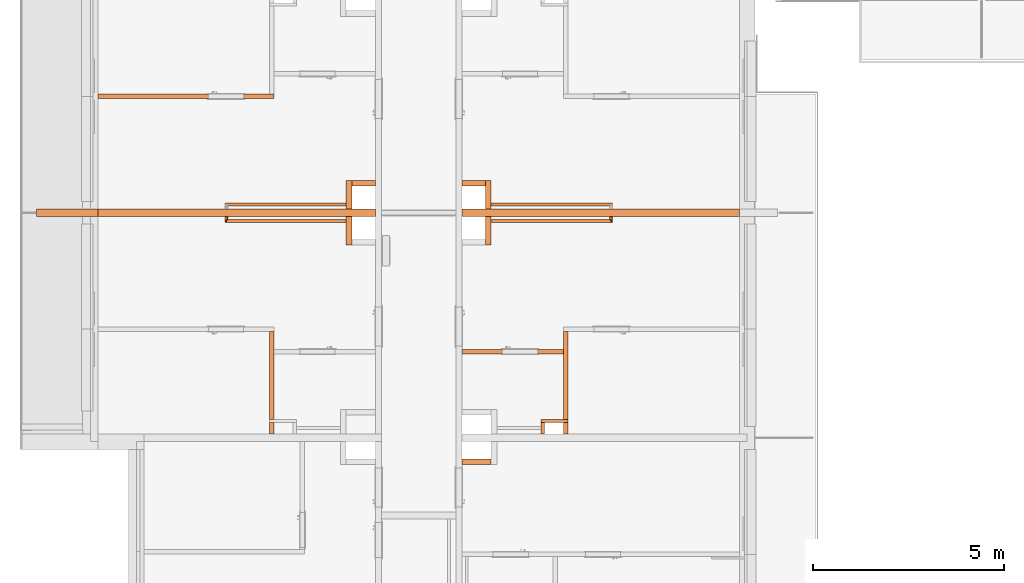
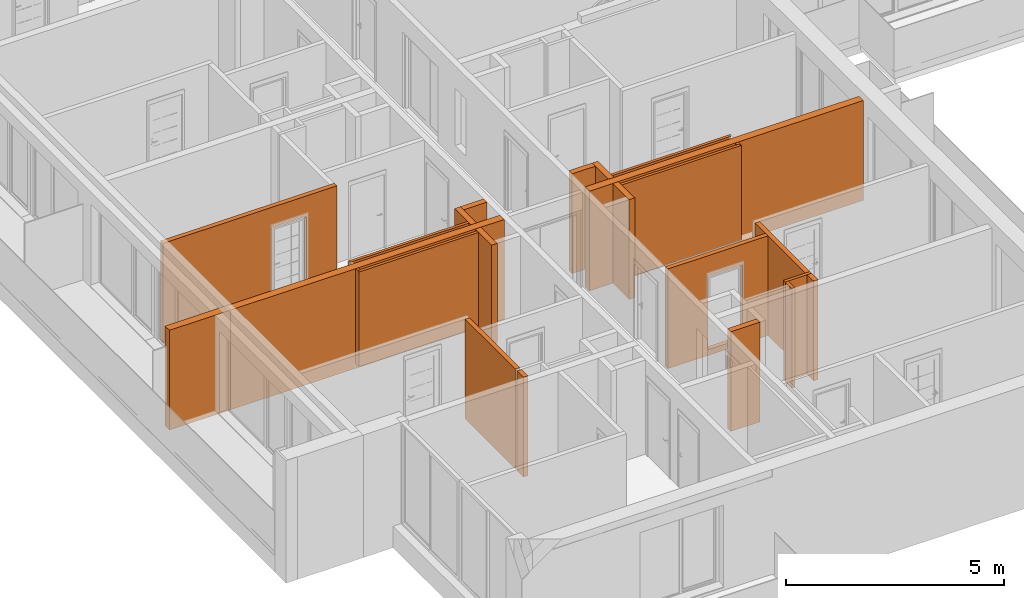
# One storey, part 53 of 67: 22 proxies, 2 openings.
"""IFC2X3 building model written with IfcOpenShell, lengths in millimetres."""

from ifc_helpers import new_model, entity, si_unit, converted_unit, derived_unit, money_unit, direction, frame, origin_with_axes, origin_2d_with_axis, place, context, subcontext, project, spatial, rectangle, extrude, faceted_brep, material, material_list, type_object, element, save


model = new_model("IFC2X3")

# Units and contexts
model_context = context("Model", 3, precision=0.01, world=origin_with_axes(), true_north=direction((0.34421633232, 0.938890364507)))
body_context = subcontext(model_context, "Body", "Model", "MODEL_VIEW")
ifc_project = project(units=[si_unit("LENGTHUNIT", "METRE", prefix="MILLI"), si_unit("AREAUNIT", "SQUARE_METRE"), si_unit("VOLUMEUNIT", "CUBIC_METRE"), converted_unit("PLANEANGLEUNIT", "DEGREE", entity("IfcPlaneAngleMeasure", 0.0174532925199), si_unit("PLANEANGLEUNIT", "RADIAN"), dimensions=[0, 0, 0, 0, 0, 0, 0]), si_unit("SOLIDANGLEUNIT", "STERADIAN"), money_unit("USD"), converted_unit("TIMEUNIT", "Year", entity("IfcTimeMeasure", 31556926.0), si_unit("TIMEUNIT", "SECOND"), dimensions=[0, 0, 1, 0, 0, 0, 0]), si_unit("MASSUNIT", "GRAM", prefix="KILO"), si_unit("THERMODYNAMICTEMPERATUREUNIT", "DEGREE_CELSIUS"), si_unit("LUMINOUSINTENSITYUNIT", "LUMEN"), si_unit("ENERGYUNIT", "JOULE", prefix="MEGA"), derived_unit("THERMALCONDUCTANCEUNIT", [(si_unit("POWERUNIT", "WATT"), 1), (si_unit("LENGTHUNIT", "METRE"), -1), (si_unit("THERMODYNAMICTEMPERATUREUNIT", "KELVIN"), -1)]), derived_unit("SPECIFICHEATCAPACITYUNIT", [(si_unit("ENERGYUNIT", "JOULE"), 1), (si_unit("MASSUNIT", "GRAM", prefix="KILO"), -1), (si_unit("THERMODYNAMICTEMPERATUREUNIT", "KELVIN"), -1)]), derived_unit("MASSDENSITYUNIT", [(si_unit("MASSUNIT", "GRAM", prefix="KILO"), 1), (si_unit("VOLUMEUNIT", "CUBIC_METRE"), -1)])], contexts=[model_context])

# Site, building, storey
site_placement = place(None, origin_with_axes())
site = spatial("IfcSite", under=ifc_project, at=site_placement, Name="USTRONIE MORSKIE", CompositionType="ELEMENT")
building_placement = place(site_placement, origin_with_axes())
building = spatial("IfcBuilding", under=site, at=building_placement, Name="Budynek", CompositionType="ELEMENT")
storey_placement = place(building_placement, frame((0.0, 0.0, 4000.0), z_axis=(0.0, 0.0, 1.0), x_axis=(1.0, 0.0, 0.0)))
storey = spatial("IfcBuildingStorey", under=building, at=storey_placement, Name="PIĘTRO 1", CompositionType="ELEMENT", Elevation=4000.0)

# Proxy
ifc_material_1 = material(Name="Bloczki silikatowe")
building_element_proxy_type_1 = type_object("IfcBuildingElementProxyType", Name="Bloczki silikatowe 120", PredefinedType="NOTDEFINED")
proxy_1_placement = place(storey_placement, frame((362417.920919, 715101.199036, -160.0), z_axis=(0.0, 0.0, 1.0), x_axis=(0.0, 1.0, 0.0)))
element("IfcBuildingElementProxy", 1, at=proxy_1_placement, inside=storey, type_object=building_element_proxy_type_1, material=ifc_material_1, Name="SW-04", context=body_context, shape_type="Brep", body=[
    faceted_brep([(400.01915523, -60.0, 2800.0), (400.01915523, 60.0, 2800.0), (99.9999880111, 60.0, 2800.0), (99.9999874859, -60.0, 2800.0), (400.01915523, -60.0, 0.0), (400.01915523, 60.0, 0.0), (99.9999880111, 60.0, 0.0), (99.9999874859, -60.0, 0.0)], [[[0, 1, 2, 3]], [[1, 0, 4, 5]], [[1, 5, 6, 2]], [[7, 3, 2, 6]], [[4, 0, 3, 7]], [[5, 4, 7, 6]]]),
    faceted_brep([(2790.01935038, -60.0, 2800.0), (2790.01935038, 60.0, 2800.0), (480.01915523, 60.0, 2800.0), (480.01915523, -60.0, 2800.0), (2790.01935038, -60.0, 0.0), (2790.01935038, 60.0, 0.0), (480.01915523, 60.0, 0.0), (480.01915523, -60.0, 0.0)], [[[0, 1, 2, 3]], [[1, 0, 4, 5]], [[1, 5, 6, 2]], [[7, 3, 2, 6]], [[4, 0, 3, 7]], [[5, 4, 7, 6]]]),
])

# Proxy, opening
proxy_2_placement = place(storey_placement, frame((354717.920919, 724051.179686, -160.0), z_axis=(0.0, 0.0, 1.0), x_axis=(-1.0, 0.0, 0.0)))
proxy_2 = element("IfcBuildingElementProxy", 2, at=proxy_2_placement, inside=storey, type_object=building_element_proxy_type_1, material=ifc_material_1, Name="SW-04", context=body_context, shape_type="Brep", body=[
    faceted_brep([(4550.0, 59.9999999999, 0.0), (4550.0, -59.9999999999, 0.0), (-60.0, -59.9999999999, 0.0), (-60.0, 59.9999999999, 0.0), (4550.0, 59.9999999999, 2800.0), (4550.0, -59.9999999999, 2800.0), (-60.0, -59.9999999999, 2800.0), (-60.0, 59.9999999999, 2800.0)], [[[0, 1, 2, 3]], [[1, 0, 4, 5]], [[1, 5, 6, 2]], [[7, 3, 2, 6]], [[4, 0, 3, 7]], [[5, 4, 7, 6]]]),
])
opening_1_placement = place(proxy_2_placement, frame((1200.0, 0.0, 160.0), z_axis=(0.0, 0.0, 1.0), x_axis=(1.0, 0.0, 0.0)))
element("IfcOpeningElement", 3, at=opening_1_placement, cuts=proxy_2, Name="Dw.3", context=body_context, shape_type="SweptSolid", body=[
    extrude(rectangle(XDim=920.0, YDim=2070.0, at=origin_2d_with_axis()), frame((0.0, -120.0, 1035.0), z_axis=(0.0, 1.0, 0.0), x_axis=(-1.0, 0.0, 0.0)), (0.0, 0.0, 1.0), 360.0),
    extrude(rectangle(XDim=994.0, YDim=2177.0, at=origin_2d_with_axis()), frame((0.0, -59.9999999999, 1088.5), z_axis=(0.0, 1.0, 0.0), x_axis=(-1.0, 0.0, 0.0)), (0.0, 0.0, -1.0), 120.0),
    extrude(rectangle(XDim=994.0, YDim=2177.0, at=origin_2d_with_axis()), frame((0.0, 60.0000000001, 1088.5), z_axis=(0.0, -1.0, 0.0), x_axis=(-1.0, 0.0, 0.0)), (0.0, 0.0, -1.0), 120.0),
])

# Proxy
proxy_3_placement = place(storey_placement, frame((354717.920919, 715101.199036, -160.0), z_axis=(0.0, 0.0, 1.0), x_axis=(0.0, 1.0, 0.0)))
element("IfcBuildingElementProxy", 4, at=proxy_3_placement, inside=storey, type_object=building_element_proxy_type_1, material=ifc_material_1, Name="SW-04", context=body_context, shape_type="Brep", body=[
    faceted_brep([(2790.01935038, 60.0, 0.0), (2790.01935038, -60.0, 0.0), (480.01915523, -60.0, 0.0), (480.01915523, 60.0, 0.0), (2790.01935038, 60.0, 2800.0), (2790.01935038, -60.0, 2800.0), (480.01915523, -60.0, 2800.0), (480.01915523, 60.0, 2800.0)], [[[0, 1, 2, 3]], [[1, 0, 4, 5]], [[1, 5, 6, 2]], [[7, 3, 2, 6]], [[4, 0, 3, 7]], [[5, 4, 7, 6]]]),
    faceted_brep([(400.01915523, 60.0, 0.0), (400.01915523, -60.0, 0.0), (100.0, -60.0, 0.0), (100.0, 60.0, 0.0), (400.01915523, 60.0, 2800.0), (400.01915523, -60.0, 2800.0), (100.0, -60.0, 2800.0), (100.0, 60.0, 2800.0)], [[[0, 1, 2, 3]], [[1, 0, 4, 5]], [[1, 5, 6, 2]], [[7, 3, 2, 6]], [[4, 0, 3, 7]], [[5, 4, 7, 6]]]),
])

# Proxy, opening
proxy_4_placement = place(storey_placement, frame((362417.920919, 717361.219701, -160.0), z_axis=(0.0, 0.0, 1.0), x_axis=(-1.0, 0.0, 0.0)))
proxy_4 = element("IfcBuildingElementProxy", 5, at=proxy_4_placement, inside=storey, type_object=building_element_proxy_type_1, material=ifc_material_1, Name="SW-04", context=body_context, shape_type="Brep", body=[
    faceted_brep([(2720.0, -59.9999999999, 2800.0), (2720.0, 59.9999999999, 2800.0), (60.0, 59.9999999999, 2800.0), (60.0, -59.9999999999, 2800.0), (2720.0, -59.9999999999, 0.0), (2720.0, 59.9999999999, 0.0), (60.0, 59.9999999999, 0.0), (60.0, -59.9999999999, 0.0)], [[[0, 1, 2, 3]], [[1, 0, 4, 5]], [[1, 5, 6, 2]], [[7, 3, 2, 6]], [[4, 0, 3, 7]], [[5, 4, 7, 6]]]),
])
opening_2_placement = place(proxy_4_placement, frame((1200.0, 0.0, 160.0), z_axis=(0.0, 0.0, 1.0), x_axis=(1.0, 0.0, 0.0)))
element("IfcOpeningElement", 6, at=opening_2_placement, cuts=proxy_4, Name="Dw.4", context=body_context, shape_type="SweptSolid", body=[
    extrude(rectangle(XDim=920.0, YDim=2070.0, at=origin_2d_with_axis()), frame((0.0, 120.0, 1035.0), z_axis=(0.0, -1.0, 0.0), x_axis=(-1.0, 0.0, 0.0)), (0.0, 0.0, 1.0), 360.0),
    extrude(rectangle(XDim=994.0, YDim=2177.0, at=origin_2d_with_axis()), frame((0.0, 60.0000000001, 1088.5), z_axis=(0.0, -1.0, 0.0), x_axis=(-1.0, 0.0, 0.0)), (0.0, 0.0, -1.0), 120.0),
    extrude(rectangle(XDim=994.0, YDim=2177.0, at=origin_2d_with_axis()), frame((0.0, -59.9999999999, 1088.5), z_axis=(0.0, 1.0, 0.0), x_axis=(-1.0, 0.0, 0.0)), (0.0, 0.0, -1.0), 120.0),
])

# Proxies
ifc_material_2 = material(Name="-Pustka powietrzna")
ifc_material_3 = material(Name="Płyta GK")
ifc_material_list_1 = material_list([ifc_material_2, ifc_material_3, ifc_material_3])
building_element_proxy_type_2 = type_object("IfcBuildingElementProxyType", Name="330-SD GK 2-warstwy 75", PredefinedType="NOTDEFINED")
proxy_5_placement = place(storey_placement, frame((360317.920919, 720771.199036, -180.0), z_axis=(0.0, 0.0, 1.0), x_axis=(1.0, 0.0, 0.0)))
element("IfcBuildingElementProxy", 7, at=proxy_5_placement, inside=storey, type_object=building_element_proxy_type_2, material=ifc_material_list_1, Name="Ściana-009", context=body_context, shape_type="Brep", body=[
    faceted_brep([(3300.0, 0.0, 180.0), (3300.0, 50.0, 180.0), (3300.0, 50.0, 2820.0), (3300.0, 0.0, 2820.0), (150.0, 50.0, 180.0), (150.0, 0.0, 180.0), (150.0, 50.0, 2820.0), (150.0, 0.0, 2820.0)], [[[0, 1, 2, 3]], [[4, 1, 0, 5]], [[1, 4, 6, 2]], [[2, 6, 7, 3]], [[5, 0, 3, 7]], [[4, 5, 7, 6]]]),
    faceted_brep([(3312.5, -12.5, 165.0), (3312.5, 0.0, 165.0), (3312.5, 0.0, 2820.0), (3312.5, -12.5, 2820.0), (150.0, 0.0, 165.0), (150.0, -12.5, 165.0), (150.0, 0.0, 2820.0), (150.0, -12.5, 2820.0)], [[[0, 1, 2, 3]], [[4, 1, 0, 5]], [[1, 4, 6, 2]], [[2, 6, 7, 3]], [[5, 0, 3, 7]], [[4, 5, 7, 6]]]),
    faceted_brep([(3325.0, -25.0, 165.0), (3325.0, -12.5, 165.0), (3325.0, -12.5, 2820.0), (3325.0, -25.0, 2820.0), (150.0, -12.5, 165.0), (150.0, -25.0, 165.0), (150.0, -12.5, 2820.0), (150.0, -25.0, 2820.0)], [[[0, 1, 2, 3]], [[4, 1, 0, 5]], [[1, 4, 6, 2]], [[2, 6, 7, 3]], [[5, 0, 3, 7]], [[4, 5, 7, 6]]]),
])
proxy_6_placement = place(storey_placement, frame((353517.920919, 721001.199036, -180.0), z_axis=(0.0, 0.0, 1.0), x_axis=(0.0, -1.0, 0.0)))
element("IfcBuildingElementProxy", 8, at=proxy_6_placement, inside=storey, type_object=building_element_proxy_type_2, material=ifc_material_list_1, Name="Ściana-009", context=body_context, shape_type="Brep", body=[
    faceted_brep([(180.0, 50.0, 180.0), (100.0, 50.0, 180.0), (100.0, 50.0, 2820.0), (180.0, 50.0, 2820.0), (100.0, 0.0, 180.0), (180.0, 0.0, 180.0), (100.0, 0.0, 2820.0), (180.0, 0.0, 2820.0)], [[[0, 1, 2, 3]], [[4, 1, 0, 5]], [[1, 4, 6, 2]], [[3, 2, 6, 7]], [[5, 0, 3, 7]], [[4, 5, 7, 6]]]),
    faceted_brep([(230.0, 0.0, 165.0), (100.0, 0.0, 165.0), (100.0, 0.0, 2820.0), (230.0, 0.0, 2820.0), (100.0, -12.5, 165.0), (230.0, -12.5, 165.0), (100.0, -12.5, 2820.0), (230.0, -12.5, 2820.0)], [[[0, 1, 2, 3]], [[4, 1, 0, 5]], [[1, 4, 6, 2]], [[3, 2, 6, 7]], [[5, 0, 3, 7]], [[4, 5, 7, 6]]]),
    faceted_brep([(242.5, -12.5, 165.0), (100.0, -12.5, 165.0), (100.0, -12.5, 2820.0), (242.5, -12.5, 2820.0), (100.0, -25.0, 165.0), (242.5, -25.0, 165.0), (100.0, -25.0, 2820.0), (242.5, -25.0, 2820.0)], [[[0, 1, 2, 3]], [[4, 1, 0, 5]], [[1, 4, 6, 2]], [[3, 2, 6, 7]], [[5, 0, 3, 7]], [[4, 5, 7, 6]]]),
])
proxy_7_placement = place(storey_placement, frame((356817.920919, 721231.199036, -180.0), z_axis=(0.0, 0.0, 1.0), x_axis=(-1.0, 0.0, 0.0)))
element("IfcBuildingElementProxy", 9, at=proxy_7_placement, inside=storey, type_object=building_element_proxy_type_2, material=ifc_material_list_1, Name="Ściana-009", context=body_context, shape_type="Brep", body=[
    faceted_brep([(150.0, 50.0, 180.0), (150.0, 0.0, 180.0), (150.0, 0.0, 2820.0), (150.0, 50.0, 2820.0), (3300.0, 0.0, 180.0), (3300.0, 50.0, 180.0), (3300.0, 0.0, 2820.0), (3300.0, 50.0, 2820.0)], [[[0, 1, 2, 3]], [[4, 1, 0, 5]], [[1, 4, 6, 2]], [[7, 3, 2, 6]], [[5, 0, 3, 7]], [[4, 5, 7, 6]]]),
    faceted_brep([(150.0, 0.0, 165.0), (150.0, -12.5, 165.0), (150.0, -12.5, 2820.0), (150.0, 0.0, 2820.0), (3312.5, -12.5, 165.0), (3312.5, 0.0, 165.0), (3312.5, -12.5, 2820.0), (3312.5, 0.0, 2820.0)], [[[0, 1, 2, 3]], [[4, 1, 0, 5]], [[1, 4, 6, 2]], [[7, 3, 2, 6]], [[5, 0, 3, 7]], [[4, 5, 7, 6]]]),
    faceted_brep([(150.0, -12.5, 165.0), (150.0, -25.0, 165.0), (150.0, -25.0, 2820.0), (150.0, -12.5, 2820.0), (3325.0, -25.0, 165.0), (3325.0, -12.5, 165.0), (3325.0, -25.0, 2820.0), (3325.0, -12.5, 2820.0)], [[[0, 1, 2, 3]], [[4, 1, 0, 5]], [[1, 4, 6, 2]], [[7, 3, 2, 6]], [[5, 0, 3, 7]], [[4, 5, 7, 6]]]),
])
ifc_material_list_2 = material_list([ifc_material_3, ifc_material_3, ifc_material_2])
proxy_8_placement = place(storey_placement, frame((356817.920919, 720771.199036, -180.0), z_axis=(0.0, 0.0, 1.0), x_axis=(-1.0, 0.0, 0.0)))
element("IfcBuildingElementProxy", 10, at=proxy_8_placement, inside=storey, type_object=building_element_proxy_type_2, material=ifc_material_list_2, Name="Ściana-009", context=body_context, shape_type="Brep", body=[
    faceted_brep([(150.0, 25.0, 165.0), (150.0, 12.5, 165.0), (150.0, 12.5, 2820.0), (150.0, 25.0, 2820.0), (3325.0, 12.5, 165.0), (3325.0, 25.0, 165.0), (3325.0, 12.5, 2820.0), (3325.0, 25.0, 2820.0)], [[[0, 1, 2, 3]], [[4, 1, 0, 5]], [[1, 4, 6, 2]], [[7, 3, 2, 6]], [[5, 0, 3, 7]], [[4, 5, 7, 6]]]),
    faceted_brep([(150.0, 12.5, 165.0), (150.0, 0.0, 165.0), (150.0, 0.0, 2820.0), (150.0, 12.5, 2820.0), (3312.5, 0.0, 165.0), (3312.5, 12.5, 165.0), (3312.5, 0.0, 2820.0), (3312.5, 12.5, 2820.0)], [[[0, 1, 2, 3]], [[4, 1, 0, 5]], [[1, 4, 6, 2]], [[7, 3, 2, 6]], [[5, 0, 3, 7]], [[4, 5, 7, 6]]]),
    faceted_brep([(150.0, 0.0, 180.0), (150.0, -50.0, 180.0), (150.0, -50.0, 2820.0), (150.0, 0.0, 2820.0), (3300.0, -50.0, 180.0), (3300.0, 0.0, 180.0), (3300.0, -50.0, 2820.0), (3300.0, 0.0, 2820.0)], [[[0, 1, 2, 3]], [[4, 1, 0, 5]], [[1, 4, 6, 2]], [[7, 3, 2, 6]], [[5, 0, 3, 7]], [[4, 5, 7, 6]]]),
])
proxy_9_placement = place(storey_placement, frame((360317.920919, 721231.199036, -180.0), z_axis=(0.0, 0.0, 1.0), x_axis=(1.0, 0.0, 0.0)))
element("IfcBuildingElementProxy", 11, at=proxy_9_placement, inside=storey, type_object=building_element_proxy_type_2, material=ifc_material_list_2, Name="Ściana-009", context=body_context, shape_type="Brep", body=[
    faceted_brep([(3325.0, 12.5, 165.0), (3325.0, 25.0, 165.0), (3325.0, 25.0, 2820.0), (3325.0, 12.5, 2820.0), (150.0, 25.0, 165.0), (150.0, 12.5, 165.0), (150.0, 25.0, 2820.0), (150.0, 12.5, 2820.0)], [[[0, 1, 2, 3]], [[4, 1, 0, 5]], [[1, 4, 6, 2]], [[2, 6, 7, 3]], [[5, 0, 3, 7]], [[4, 5, 7, 6]]]),
    faceted_brep([(3312.5, 0.0, 165.0), (3312.5, 12.5, 165.0), (3312.5, 12.5, 2820.0), (3312.5, 0.0, 2820.0), (150.0, 12.5, 165.0), (150.0, 0.0, 165.0), (150.0, 12.5, 2820.0), (150.0, 0.0, 2820.0)], [[[0, 1, 2, 3]], [[4, 1, 0, 5]], [[1, 4, 6, 2]], [[2, 6, 7, 3]], [[5, 0, 3, 7]], [[4, 5, 7, 6]]]),
    faceted_brep([(3300.0, -50.0, 180.0), (3300.0, 0.0, 180.0), (3300.0, 0.0, 2820.0), (3300.0, -50.0, 2820.0), (150.0, 0.0, 180.0), (150.0, -50.0, 180.0), (150.0, 0.0, 2820.0), (150.0, -50.0, 2820.0)], [[[0, 1, 2, 3]], [[4, 1, 0, 5]], [[1, 4, 6, 2]], [[2, 6, 7, 3]], [[5, 0, 3, 7]], [[4, 5, 7, 6]]]),
])
proxy_10_placement = place(storey_placement, frame((363617.920919, 721001.199036, -180.0), z_axis=(0.0, 0.0, 1.0), x_axis=(0.0, -1.0, 0.0)))
element("IfcBuildingElementProxy", 12, at=proxy_10_placement, inside=storey, type_object=building_element_proxy_type_2, material=ifc_material_list_2, Name="Ściana-009", context=body_context, shape_type="Brep", body=[
    faceted_brep([(242.5, 25.0, 165.0), (100.0, 25.0, 165.0), (100.0, 25.0, 2820.0), (242.5, 25.0, 2820.0), (100.0, 12.5, 165.0), (242.5, 12.5, 165.0), (100.0, 12.5, 2820.0), (242.5, 12.5, 2820.0)], [[[0, 1, 2, 3]], [[4, 1, 0, 5]], [[1, 4, 6, 2]], [[3, 2, 6, 7]], [[5, 0, 3, 7]], [[4, 5, 7, 6]]]),
    faceted_brep([(230.0, 12.5, 165.0), (100.0, 12.5, 165.0), (100.0, 12.5, 2820.0), (230.0, 12.5, 2820.0), (100.0, 0.0, 165.0), (230.0, 0.0, 165.0), (100.0, 0.0, 2820.0), (230.0, 0.0, 2820.0)], [[[0, 1, 2, 3]], [[4, 1, 0, 5]], [[1, 4, 6, 2]], [[3, 2, 6, 7]], [[5, 0, 3, 7]], [[4, 5, 7, 6]]]),
    faceted_brep([(180.0, 0.0, 180.0), (100.0, 0.0, 180.0), (100.0, 0.0, 2820.0), (180.0, 0.0, 2820.0), (100.0, -50.0, 180.0), (180.0, -50.0, 180.0), (100.0, -50.0, 2820.0), (180.0, -50.0, 2820.0)], [[[0, 1, 2, 3]], [[4, 1, 0, 5]], [[1, 4, 6, 2]], [[3, 2, 6, 7]], [[5, 0, 3, 7]], [[4, 5, 7, 6]]]),
])
building_element_proxy_type_3 = type_object("IfcBuildingElementProxyType", Name="Bloczki silikatowe 80", PredefinedType="NOTDEFINED")
proxy_11_placement = place(storey_placement, frame((362417.920919, 715541.218191, -160.0), z_axis=(0.0, 0.0, 1.0), x_axis=(-1.0, 0.0, 0.0)))
element("IfcBuildingElementProxy", 13, at=proxy_11_placement, inside=storey, type_object=building_element_proxy_type_3, material=ifc_material_1, Name="Ściana-009", context=body_context, shape_type="Brep", body=[
    faceted_brep([(640.0, -40.0, 2800.0), (640.0, 40.0, 2800.0), (-60.0, 40.0, 2800.0), (-60.0, -40.0, 2800.0), (640.0, -40.0, 0.0), (640.0, 40.0, 0.0), (-60.0, 40.0, 0.0), (-60.0, -40.0, 0.0)], [[[0, 1, 2, 3]], [[1, 0, 4, 5]], [[1, 5, 6, 2]], [[7, 3, 2, 6]], [[4, 0, 3, 7]], [[5, 4, 7, 6]]]),
])
proxy_12_placement = place(storey_placement, frame((361817.920919, 715101.199027, -160.0), z_axis=(0.0, 0.0, 1.0), x_axis=(0.0, 1.0, 0.0)))
element("IfcBuildingElementProxy", 14, at=proxy_12_placement, inside=storey, type_object=building_element_proxy_type_3, material=ifc_material_1, Name="Ściana-010", context=body_context, shape_type="Brep", body=[
    faceted_brep([(400.019164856, -40.0, 2800.0), (400.019164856, 40.0, 2800.0), (100.000000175, 40.0, 2800.0), (99.9999998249, -40.0, 2800.0), (400.019164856, -40.0, 0.0), (400.019164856, 40.0, 0.0), (100.000000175, 40.0, 0.0), (99.9999998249, -40.0, 0.0)], [[[0, 1, 2, 3]], [[1, 0, 4, 5]], [[1, 5, 6, 2]], [[7, 3, 2, 6]], [[4, 0, 3, 7]], [[5, 4, 7, 6]]]),
])
building_element_proxy_type_4 = type_object("IfcBuildingElementProxyType", Name="Bloczki silikatowe 150", PredefinedType="NOTDEFINED")
proxy_13_placement = place(storey_placement, frame((360317.920919, 721001.198998, -160.0), z_axis=(0.0, 0.0, 1.0), x_axis=(0.0, 1.0, 0.0)))
element("IfcBuildingElementProxy", 15, at=proxy_13_placement, inside=storey, type_object=building_element_proxy_type_4, material=ifc_material_1, Name="SW-03", context=body_context, shape_type="Brep", body=[
    faceted_brep([(850.000037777, -150.0, 2800.0), (850.000037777, 0.0, 2800.0), (100.000037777, 0.0, 2800.0), (100.000037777, -150.0, 2800.0), (850.000037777, -150.0, 0.0), (850.000037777, 0.0, 0.0), (100.000037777, 0.0, 0.0), (100.000037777, -150.0, 0.0)], [[[0, 1, 2, 3]], [[1, 0, 4, 5]], [[1, 5, 6, 2]], [[7, 3, 2, 6]], [[4, 0, 3, 7]], [[5, 4, 7, 6]]]),
])
proxy_14_placement = place(storey_placement, frame((356817.920919, 721001.199074, -160.0), z_axis=(0.0, 0.0, 1.0), x_axis=(0.0, -1.0, 0.0)))
element("IfcBuildingElementProxy", 16, at=proxy_14_placement, inside=storey, type_object=building_element_proxy_type_4, material=ifc_material_1, Name="SW-03", context=body_context, shape_type="Brep", body=[
    faceted_brep([(850.000037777, 0.0, 0.0), (100.000037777, 0.0, 0.0), (100.000037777, 0.0, 2800.0), (850.000037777, 0.0, 2800.0), (850.000037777, -150.0, 0.0), (100.000037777, -150.0, 0.0), (100.000037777, -150.0, 2800.0), (850.000037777, -150.0, 2800.0)], [[[0, 1, 2, 3]], [[4, 5, 1, 0]], [[5, 6, 2, 1]], [[3, 2, 6, 7]], [[4, 0, 3, 7]], [[7, 6, 5, 4]]]),
])
proxy_15_placement = place(storey_placement, frame((360317.920919, 721701.199036, -160.0), z_axis=(0.0, 0.0, 1.0), x_axis=(-1.0, 0.0, 0.0)))
element("IfcBuildingElementProxy", 17, at=proxy_15_placement, inside=storey, type_object=building_element_proxy_type_4, material=ifc_material_1, Name="SW-03", context=body_context, shape_type="Brep", body=[
    faceted_brep([(620.0, -150.0, 2800.0), (620.0, 0.0, 2800.0), (0.0, 0.0, 2800.0), (0.0, -150.0, 2800.0), (620.0, -150.0, 0.0), (620.0, 0.0, 0.0), (0.0, 0.0, 0.0), (0.0, -150.0, 0.0)], [[[0, 1, 2, 3]], [[1, 0, 4, 5]], [[1, 5, 6, 2]], [[7, 3, 2, 6]], [[4, 0, 3, 7]], [[5, 4, 7, 6]]]),
])
proxy_16_placement = place(storey_placement, frame((360317.920919, 721001.199074, -160.0), z_axis=(0.0, 0.0, 1.0), x_axis=(0.0, -1.0, 0.0)))
element("IfcBuildingElementProxy", 18, at=proxy_16_placement, inside=storey, type_object=building_element_proxy_type_4, material=ifc_material_1, Name="SW-03", context=body_context, shape_type="Brep", body=[
    faceted_brep([(850.000037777, 150.0, 0.0), (100.000037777, 150.0, 0.0), (100.000037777, 150.0, 2800.0), (850.000037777, 150.0, 2800.0), (850.000037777, 0.0, 0.0), (100.000037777, 0.0, 0.0), (100.000037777, 0.0, 2800.0), (850.000037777, 0.0, 2800.0)], [[[0, 1, 2, 3]], [[4, 5, 1, 0]], [[5, 6, 2, 1]], [[3, 2, 6, 7]], [[3, 7, 4, 0]], [[7, 6, 5, 4]]]),
])
proxy_17_placement = place(storey_placement, frame((356817.920919, 721001.198998, -160.0), z_axis=(0.0, 0.0, 1.0), x_axis=(0.0, 1.0, 0.0)))
element("IfcBuildingElementProxy", 19, at=proxy_17_placement, inside=storey, type_object=building_element_proxy_type_4, material=ifc_material_1, Name="SW-03", context=body_context, shape_type="Brep", body=[
    faceted_brep([(850.000037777, 150.0, 0.0), (850.000037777, 0.0, 0.0), (100.000037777, 0.0, 0.0), (100.000037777, 150.0, 0.0), (850.000037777, 150.0, 2800.0), (850.000037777, 0.0, 2800.0), (100.000037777, 0.0, 2800.0), (100.000037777, 150.0, 2800.0)], [[[0, 1, 2, 3]], [[1, 0, 4, 5]], [[1, 5, 6, 2]], [[7, 3, 2, 6]], [[4, 0, 3, 7]], [[5, 4, 7, 6]]]),
])
proxy_18_placement = place(storey_placement, frame((356817.920919, 721701.199036, -160.0), z_axis=(0.0, 0.0, 1.0), x_axis=(1.0, 0.0, 0.0)))
element("IfcBuildingElementProxy", 20, at=proxy_18_placement, inside=storey, type_object=building_element_proxy_type_4, material=ifc_material_1, Name="SW-03", context=body_context, shape_type="Brep", body=[
    faceted_brep([(620.0, 150.0, 0.0), (620.0, 0.0, 0.0), (0.0, 0.0, 0.0), (0.0, 150.0, 0.0), (620.0, 150.0, 2800.0), (620.0, 0.0, 2800.0), (0.0, 0.0, 2800.0), (0.0, 150.0, 2800.0)], [[[0, 1, 2, 3]], [[1, 0, 4, 5]], [[1, 5, 6, 2]], [[7, 3, 2, 6]], [[4, 0, 3, 7]], [[5, 4, 7, 6]]]),
])
proxy_19_placement = place(storey_placement, frame((360542.92182, 714476.197058, -160.0), z_axis=(0.0, 0.0, 1.0), x_axis=(-1.0, 0.0, 0.0)))
element("IfcBuildingElementProxy", 21, at=proxy_19_placement, inside=storey, type_object=building_element_proxy_type_4, material=ifc_material_1, Name="Ściana-009", context=body_context, shape_type="Brep", body=[
    faceted_brep([(845.00090117, 75.0, 0.0), (845.00090117, -75.0, 0.0), (75.0, -75.0, 0.0), (75.0, 75.0, 0.0), (845.00090117, 75.0, 2800.0), (845.00090117, -75.0, 2800.0), (75.0, -75.0, 2800.0), (75.0, 75.0, 2800.0)], [[[0, 1, 2, 3]], [[1, 0, 4, 5]], [[1, 5, 6, 2]], [[7, 3, 2, 6]], [[4, 0, 3, 7]], [[5, 4, 7, 6]]]),
])
ifc_material_4 = material(Name="Beton konstrukcyjny B25")
building_element_proxy_type_5 = type_object("IfcBuildingElementProxyType", Name="Beton konstrukcyjny B25 200", PredefinedType="NOTDEFINED")
proxy_20_placement = place(storey_placement, frame((350067.920919, 721001.199036, -160.0), z_axis=(0.0, 0.0, 1.0), x_axis=(1.0, 0.0, 0.0)))
element("IfcBuildingElementProxy", 22, at=proxy_20_placement, inside=storey, type_object=building_element_proxy_type_5, material=ifc_material_4, Name="SW-01", context=body_context, shape_type="Brep", body=[
    faceted_brep([(100.0, -100.0, 2800.0), (7370.0, -100.0, 2800.0), (7370.0, 100.0, 2800.0), (100.0, 100.0, 2800.0), (100.0, -100.0, 0.0), (7370.0, -100.0, 0.0), (7370.0, 100.0, 0.0), (100.0, 100.0, 0.0)], [[[0, 1, 2, 3]], [[4, 5, 1, 0]], [[5, 6, 2, 1]], [[3, 2, 6, 7]], [[4, 0, 3, 7]], [[7, 6, 5, 4]]]),
])
proxy_21_placement = place(storey_placement, frame((350067.920919, 721001.199036, -160.0), z_axis=(0.0, 0.0, 1.0), x_axis=(-1.0, 0.0, 0.0)))
element("IfcBuildingElementProxy", 23, at=proxy_21_placement, inside=storey, type_object=building_element_proxy_type_5, material=ifc_material_4, Name="SW-01", context=body_context, shape_type="Brep", body=[
    faceted_brep([(1520.0, 100.0, 2800.0), (-100.0, 100.0, 2800.0), (-100.0, -100.0, 2800.0), (1520.0, -100.0, 2800.0), (1520.0, 100.0, 0.0), (-100.0, 100.0, 0.0), (-100.0, -100.0, 0.0), (1520.0, -100.0, 0.0)], [[[0, 1, 2, 3]], [[4, 5, 1, 0]], [[1, 5, 6, 2]], [[3, 2, 6, 7]], [[7, 4, 0, 3]], [[7, 6, 5, 4]]]),
])
proxy_22_placement = place(storey_placement, frame((359617.920919, 721001.199036, -160.0), z_axis=(0.0, 0.0, 1.0), x_axis=(1.0, 0.0, 0.0)))
element("IfcBuildingElementProxy", 24, at=proxy_22_placement, inside=storey, type_object=building_element_proxy_type_5, material=ifc_material_4, Name="SW-01", context=body_context, shape_type="Brep", body=[
    faceted_brep([(80.0, -100.0, 2800.0), (7350.01181243, -100.0, 2800.0), (7350.01139227, 100.0, 2800.0), (80.0, 100.0, 2800.0), (80.0, -100.0, 0.0), (7350.01181243, -100.0, 0.0), (7350.01139227, 100.0, 0.0), (80.0, 100.0, 0.0)], [[[0, 1, 2, 3]], [[4, 5, 1, 0]], [[5, 6, 2, 1]], [[3, 2, 6, 7]], [[3, 7, 4, 0]], [[7, 6, 5, 4]]]),
])

save(model, "model.ifc")
